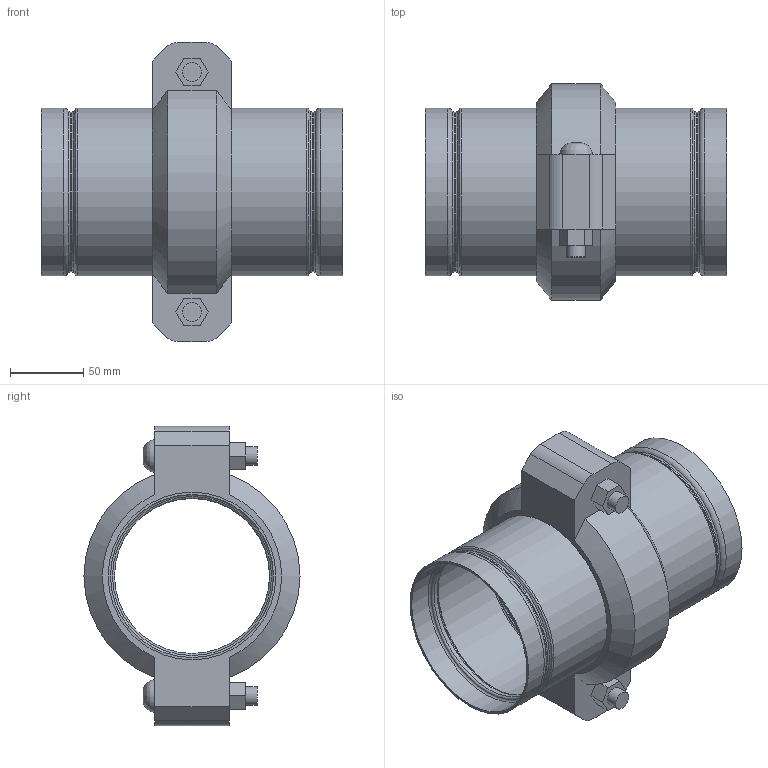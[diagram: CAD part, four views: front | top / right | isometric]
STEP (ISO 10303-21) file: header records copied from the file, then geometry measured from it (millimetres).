
FILE_DESCRIPTION(/* description */ ('VIC STRENGTHIN 100 EXPANSION JOINT 1 COUPLING NEUTRAL STYLE E155 (ST1)','CAx-IF Rec.Pracs.---Representation and Presentation of Product Manufacturing Information (PMI)---4.0---2014-10-13'),/* implementation_level */ '2;1');
FILE_NAME(/* name */ 'C:\Users\Vjadhav\AppData\Roaming\Autodesk\ApplicationPlugins\Victaulic.Temp\A726\Victaulic_SS-StrengThin 100_Expansion Joint_Neutral_1 Coupling_Style E155 (ST1)_1 Coup_Neut_4 (100).stp',/* time_stamp */ '2021-07-20T17:38:40+05:00',/* author */ ('kkamble'),/* organization */ ('Victaulic'),/* preprocessor_version */ 'ST-DEVELOPER v17.2',/* originating_system */ 'Autodesk Inventor 2019',/* authorisation */ '');
FILE_SCHEMA (('AP242_MANAGED_MODEL_BASED_3D_ENGINEERING_MIM_LF { 1 0 10303 442 1 1 4 }'));
Length unit declared in the file: inch
Products named in the file (3): E155-04.0; E494G-04.0; 075-04.0
Assembly tree (3 placements, depth 2):
  E155-04.0
    E494G-04.0  x2
    075-04.0
Bounding box: 205.74 x 147.32 x 203.96 mm (x, y, z)
Volume: 603357.9 mm3; surface area: 230565.3 mm2
Topology: 3 solids, 5 shells, 125 faces, 355 edges, 256 vertices
Faces by surface type: plane 48, cylinder 35, torus 32, cone 8, bspline 2
Full cylindrical faces by diameter (mm): 12.7 x4, 14.605 x2, 105.639 x2, 106.883 x2, 107.95 x1, 108.839 x2, 110.084 x2, 111.1 x6, 114.3 x8
Entity records: 3250 total; most frequent: CARTESIAN_POINT 582, DIRECTION 569, ORIENTED_EDGE 488, EDGE_CURVE 244, AXIS2_PLACEMENT_3D 238, VERTEX_POINT 173, CIRCLE 143, EDGE_LOOP 111
